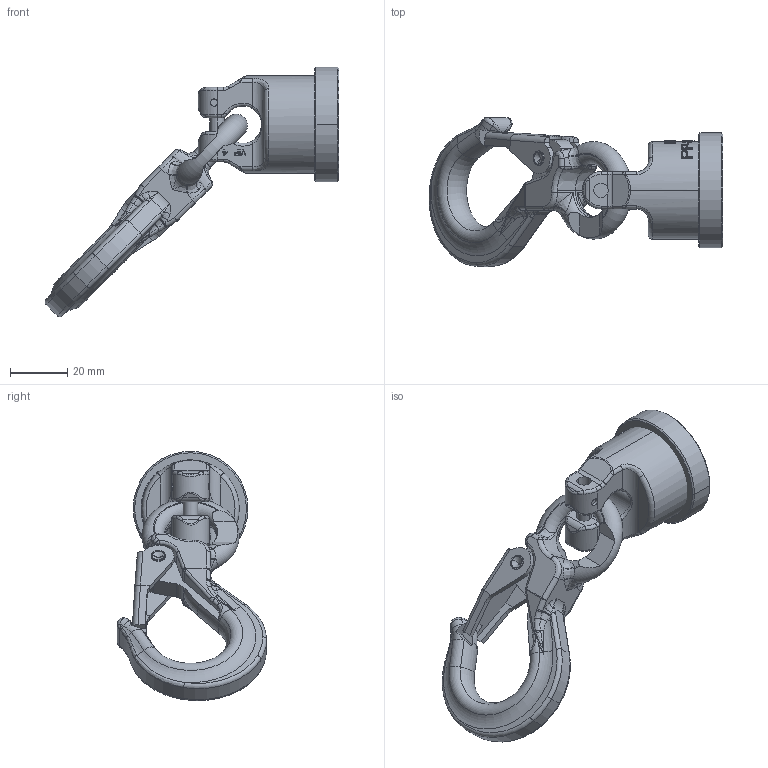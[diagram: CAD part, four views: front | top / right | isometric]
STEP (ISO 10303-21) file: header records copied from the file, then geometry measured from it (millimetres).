
FILE_DESCRIPTION((''),'2;1');
FILE_NAME('001-M31453-P-40_ASM','2018-04-27T',('Anja.Joas'),(''),'PRO/ENGINEER BY PARAMETRIC TECHNOLOGY CORPORATION, 2011490','PRO/ENGINEER BY PARAMETRIC TECHNOLOGY CORPORATION, 2011490','');
FILE_SCHEMA(('CONFIG_CONTROL_DESIGN'));
Length unit declared in the file: millimetre
Products named in the file (6): 001-M31453-P-20; 001-M31453-P-50; 001-M31569-P-1; 001-M31567-P-1; 001-M31569-P-1_ASM; 001-M31453-P-40_ASM
Assembly tree (5 placements, depth 3):
  001-M31453-P-40_ASM
    001-M31453-P-20
    001-M31453-P-50
    001-M31569-P-1_ASM
      001-M31569-P-1
      001-M31567-P-1
Bounding box: 102.48 x 51.99 x 86.98 mm (x, y, z)
Volume: 55216.3 mm3; surface area: 19019.5 mm2
Topology: 4 solids, 4 shells, 789 faces, 2062 edges, 1301 vertices
Faces by surface type: plane 455, cylinder 135, bspline 129, torus 50, cone 14, sphere 6
Entity records: 29383 total; most frequent: CARTESIAN_POINT 11469, ORIENTED_EDGE 4116, DIRECTION 3164, EDGE_CURVE 2058, VERTEX_POINT 1301, AXIS2_PLACEMENT_3D 1167, VECTOR 830, LINE 830
